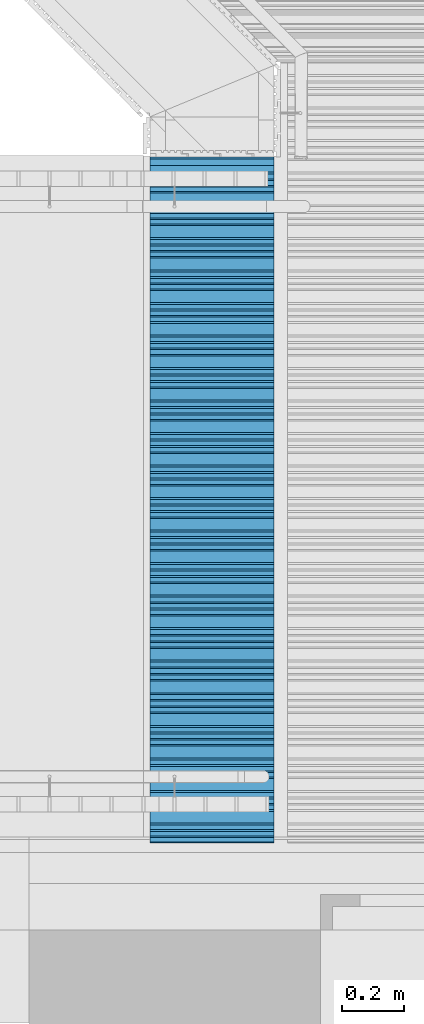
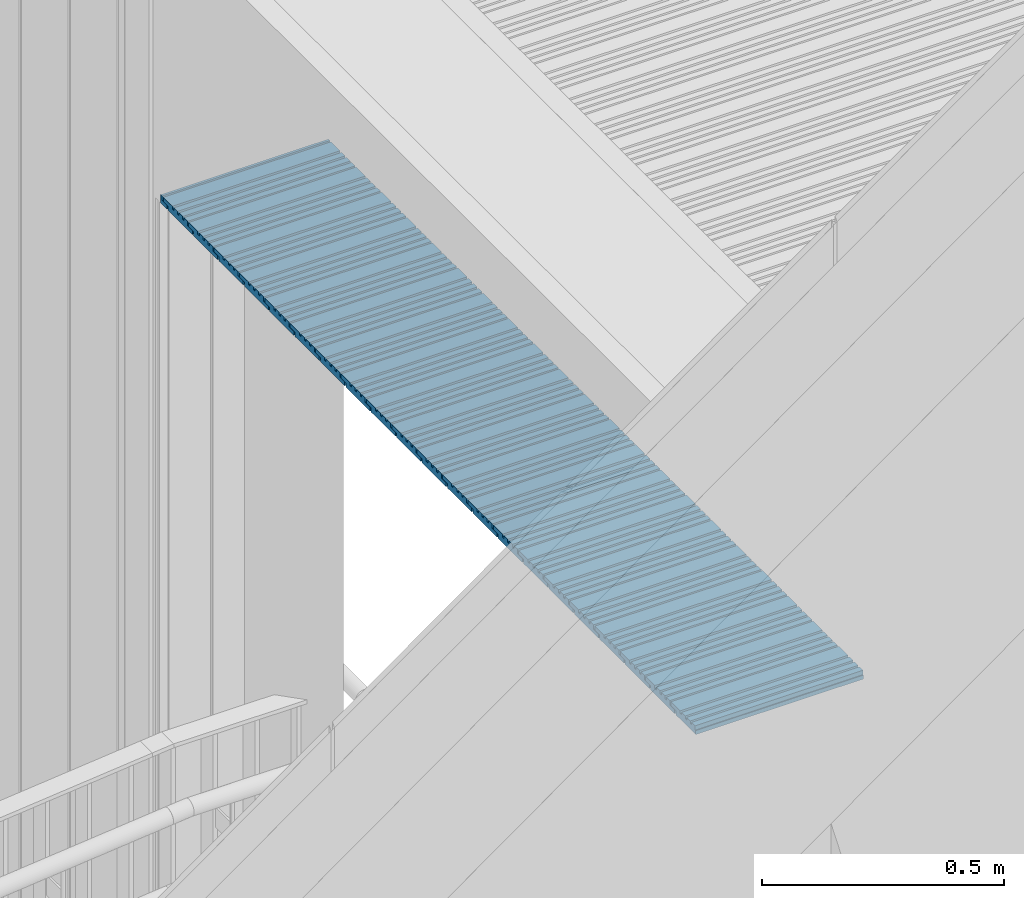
# One storey, part 70 of 418: 22 building element parts, 1 element without a shape of its own.
"""IFC2X3 building model written with IfcOpenShell, lengths in millimetres."""

from ifc_helpers import new_model, entity, si_unit, converted_unit, derived_unit, money_unit, direction, frame, origin_with_axes, place, context, subcontext, project, spatial, polyline, outline, extrude, material, type_object, element, aggregate, save


model = new_model("IFC2X3")

# Units and contexts
model_context = context("Model", 3, precision=0.01, world=origin_with_axes(), true_north=direction((0.0, 1.0)))
body_context = subcontext(model_context, "Body", "Model", "MODEL_VIEW")
ifc_project = project(units=[si_unit("LENGTHUNIT", "METRE", prefix="MILLI"), si_unit("AREAUNIT", "SQUARE_METRE"), si_unit("VOLUMEUNIT", "CUBIC_METRE"), converted_unit("PLANEANGLEUNIT", "DEGREE", entity("IfcPlaneAngleMeasure", 0.0174532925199), si_unit("PLANEANGLEUNIT", "RADIAN"), dimensions=[0, 0, 0, 0, 0, 0, 0]), si_unit("SOLIDANGLEUNIT", "STERADIAN"), money_unit("EUR"), converted_unit("TIMEUNIT", "Year", entity("IfcTimeMeasure", 31556926.0), si_unit("TIMEUNIT", "SECOND"), dimensions=[0, 0, 1, 0, 0, 0, 0]), si_unit("MASSUNIT", "GRAM", prefix="KILO"), si_unit("THERMODYNAMICTEMPERATUREUNIT", "DEGREE_CELSIUS"), si_unit("LUMINOUSINTENSITYUNIT", "LUMEN"), si_unit("ENERGYUNIT", "JOULE", prefix="MEGA"), derived_unit("THERMALCONDUCTANCEUNIT", [(si_unit("POWERUNIT", "WATT"), 1), (si_unit("LENGTHUNIT", "METRE"), -1), (si_unit("THERMODYNAMICTEMPERATUREUNIT", "KELVIN"), -1)]), derived_unit("SPECIFICHEATCAPACITYUNIT", [(si_unit("ENERGYUNIT", "JOULE"), 1), (si_unit("MASSUNIT", "GRAM", prefix="KILO"), -1), (si_unit("THERMODYNAMICTEMPERATUREUNIT", "KELVIN"), -1)]), derived_unit("MASSDENSITYUNIT", [(si_unit("MASSUNIT", "GRAM", prefix="KILO"), 1), (si_unit("VOLUMEUNIT", "CUBIC_METRE"), -1)])], contexts=[model_context])

# Site, building, storey
site_placement = place(None, origin_with_axes())
site = spatial("IfcSite", under=ifc_project, at=site_placement, Name="Paldiski mnt 245/1, Tallinn, Harjumaa", CompositionType="COMPLEX")
building_placement = place(site_placement, origin_with_axes())
building = spatial("IfcBuilding", under=site, at=building_placement, Name="RKAS Hoone üldnimetus (kasutust iseloomustav) -> IFC Project Manager -> SOLIBRI", CompositionType="ELEMENT")
storey_placement = place(building_placement, origin_with_axes())
storey = spatial("IfcBuildingStorey", under=building, at=storey_placement, Name="Esimene korrus", CompositionType="ELEMENT", Elevation=0.0)

# Proxy, building element parts
building_element_proxy_type = type_object("IfcBuildingElementProxyType", Name="Laudis ava ulemine serv_02 2213 x 21", PredefinedType="NOTDEFINED")
proxy_placement = place(storey_placement, frame((-52998.5062673, 38584.1807452, 2280.0), z_axis=(0.0, 0.0, 1.0), x_axis=(-1.0, 0.0, 0.0)))
proxy = element("IfcBuildingElementProxy", 1, at=proxy_placement, inside=storey, type_object=building_element_proxy_type, Name="Varikatus")
ifc_material = material(Name="Laudis 5072 Honka 45 horisontaalne")
building_element_part_1_placement = place(proxy_placement, origin_with_axes())
building_element_part_1 = element("IfcBuildingElementPart", 2, at=building_element_part_1_placement, material=ifc_material, Name="Laudis 5072 Honka 45 horisontaalne", context=body_context, shape_type="SweptSolid", body=[
    extrude(outline(polyline([(31.1789260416, 0.0), (131.17892573, 0.0), (131.178926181, 9.99999952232), (111.178926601, 10.0000004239), (111.178925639, 21.0000001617), (96.6027385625, 21.0000005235), (96.6027383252, 14.000001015), (90.9620699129, 14.0000003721), (90.9620689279, 21.0000008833), (76.1335765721, 20.9999999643), (76.1335763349, 14.0000004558), (70.0066356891, 14.0000000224), (70.0066359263, 20.9999995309), (55.0675187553, 20.9999996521), (55.067518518, 14.0000001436), (48.7050214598, 14.0000004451), (48.7050204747, 21.0000009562), (11.1789259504, 20.9999999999), (11.1789255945, 10.5000007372), (31.1789261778, 10.5000010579), (31.1789260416, 0.0)])), frame((0.0, 0.0, 0.0), z_axis=(1.0, 0.0, 0.0), x_axis=(0.0, 1.0, 0.0)), (0.0, 0.0, 1.0), 400.423812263),
])
building_element_part_2_placement = place(proxy_placement, origin_with_axes())
building_element_part_2 = element("IfcBuildingElementPart", 3, at=building_element_part_2_placement, material=ifc_material, Name="Laudis 5072 Honka 45 horisontaalne", context=body_context, shape_type="SweptSolid", body=[
    extrude(outline(polyline([(136.178926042, 0.0), (236.17892573, 0.0), (236.178926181, 9.99999952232), (216.178926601, 10.0000004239), (216.178925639, 21.0000001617), (201.602738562, 21.0000005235), (201.602738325, 14.000001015), (195.962069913, 14.0000003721), (195.962068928, 21.0000008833), (181.133576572, 20.9999999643), (181.133576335, 14.0000004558), (175.006635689, 14.0000000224), (175.006635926, 20.9999995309), (160.067518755, 20.9999996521), (160.067518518, 14.0000001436), (153.70502146, 14.0000004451), (153.705020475, 21.0000009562), (116.17892595, 20.9999999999), (116.178925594, 10.5000007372), (136.178926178, 10.5000010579), (136.178926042, 0.0)])), frame((0.0, 0.0, 0.0), z_axis=(1.0, 0.0, 0.0), x_axis=(0.0, 1.0, 0.0)), (0.0, 0.0, 1.0), 400.423812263),
])
building_element_part_3_placement = place(proxy_placement, origin_with_axes())
building_element_part_3 = element("IfcBuildingElementPart", 4, at=building_element_part_3_placement, material=ifc_material, Name="Laudis 5072 Honka 45 horisontaalne", context=body_context, shape_type="SweptSolid", body=[
    extrude(outline(polyline([(241.178926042, 0.0), (341.17892573, 0.0), (341.178926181, 9.99999952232), (321.178926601, 10.0000004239), (321.178925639, 21.0000001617), (306.602738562, 21.0000005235), (306.602738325, 14.000001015), (300.962069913, 14.0000003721), (300.962068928, 21.0000008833), (286.133576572, 20.9999999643), (286.133576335, 14.0000004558), (280.006635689, 14.0000000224), (280.006635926, 20.9999995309), (265.067518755, 20.9999996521), (265.067518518, 14.0000001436), (258.70502146, 14.0000004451), (258.705020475, 21.0000009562), (221.17892595, 20.9999999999), (221.178925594, 10.5000007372), (241.178926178, 10.5000010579), (241.178926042, 0.0)])), frame((0.0, 0.0, 0.0), z_axis=(1.0, 0.0, 0.0), x_axis=(0.0, 1.0, 0.0)), (0.0, 0.0, 1.0), 400.423812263),
])
building_element_part_4_placement = place(proxy_placement, origin_with_axes())
building_element_part_4 = element("IfcBuildingElementPart", 5, at=building_element_part_4_placement, material=ifc_material, Name="Laudis 5072 Honka 45 horisontaalne", context=body_context, shape_type="SweptSolid", body=[
    extrude(outline(polyline([(346.178926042, 0.0), (446.17892573, 0.0), (446.178926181, 9.99999952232), (426.178926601, 10.0000004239), (426.178925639, 21.0000001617), (411.602738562, 21.0000005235), (411.602738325, 14.000001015), (405.962069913, 14.0000003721), (405.962068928, 21.0000008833), (391.133576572, 20.9999999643), (391.133576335, 14.0000004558), (385.006635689, 14.0000000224), (385.006635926, 20.9999995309), (370.067518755, 20.9999996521), (370.067518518, 14.0000001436), (363.70502146, 14.0000004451), (363.705020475, 21.0000009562), (326.17892595, 20.9999999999), (326.178925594, 10.5000007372), (346.178926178, 10.5000010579), (346.178926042, 0.0)])), frame((0.0, 0.0, 0.0), z_axis=(1.0, 0.0, 0.0), x_axis=(0.0, 1.0, 0.0)), (0.0, 0.0, 1.0), 400.423812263),
])
building_element_part_5_placement = place(proxy_placement, origin_with_axes())
building_element_part_5 = element("IfcBuildingElementPart", 6, at=building_element_part_5_placement, material=ifc_material, Name="Laudis 5072 Honka 45 horisontaalne", context=body_context, shape_type="SweptSolid", body=[
    extrude(outline(polyline([(451.178926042, 0.0), (551.17892573, 0.0), (551.178926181, 9.99999952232), (531.178926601, 10.0000004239), (531.178925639, 21.0000001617), (516.602738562, 21.0000005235), (516.602738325, 14.000001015), (510.962069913, 14.0000003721), (510.962068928, 21.0000008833), (496.133576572, 20.9999999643), (496.133576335, 14.0000004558), (490.006635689, 14.0000000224), (490.006635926, 20.9999995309), (475.067518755, 20.9999996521), (475.067518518, 14.0000001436), (468.70502146, 14.0000004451), (468.705020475, 21.0000009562), (431.17892595, 20.9999999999), (431.178925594, 10.5000007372), (451.178926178, 10.5000010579), (451.178926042, 0.0)])), frame((0.0, 0.0, 0.0), z_axis=(1.0, 0.0, 0.0), x_axis=(0.0, 1.0, 0.0)), (0.0, 0.0, 1.0), 400.423812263),
])
building_element_part_6_placement = place(proxy_placement, origin_with_axes())
building_element_part_6 = element("IfcBuildingElementPart", 7, at=building_element_part_6_placement, material=ifc_material, Name="Laudis 5072 Honka 45 horisontaalne", context=body_context, shape_type="SweptSolid", body=[
    extrude(outline(polyline([(556.178926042, 0.0), (656.17892573, 0.0), (656.178926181, 9.99999952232), (636.178926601, 10.0000004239), (636.178925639, 21.0000001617), (621.602738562, 21.0000005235), (621.602738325, 14.000001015), (615.962069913, 14.0000003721), (615.962068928, 21.0000008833), (601.133576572, 20.9999999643), (601.133576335, 14.0000004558), (595.006635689, 14.0000000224), (595.006635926, 20.9999995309), (580.067518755, 20.9999996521), (580.067518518, 14.0000001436), (573.70502146, 14.0000004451), (573.705020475, 21.0000009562), (536.17892595, 20.9999999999), (536.178925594, 10.5000007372), (556.178926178, 10.5000010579), (556.178926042, 0.0)])), frame((0.0, 0.0, 0.0), z_axis=(1.0, 0.0, 0.0), x_axis=(0.0, 1.0, 0.0)), (0.0, 0.0, 1.0), 400.423812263),
])
building_element_part_7_placement = place(proxy_placement, origin_with_axes())
building_element_part_7 = element("IfcBuildingElementPart", 8, at=building_element_part_7_placement, material=ifc_material, Name="Laudis 5072 Honka 45 horisontaalne", context=body_context, shape_type="SweptSolid", body=[
    extrude(outline(polyline([(661.178926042, 0.0), (761.17892573, 0.0), (761.178926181, 9.99999952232), (741.178926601, 10.0000004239), (741.178925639, 21.0000001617), (726.602738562, 21.0000005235), (726.602738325, 14.000001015), (720.962069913, 14.0000003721), (720.962068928, 21.0000008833), (706.133576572, 20.9999999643), (706.133576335, 14.0000004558), (700.006635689, 14.0000000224), (700.006635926, 20.9999995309), (685.067518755, 20.9999996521), (685.067518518, 14.0000001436), (678.70502146, 14.0000004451), (678.705020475, 21.0000009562), (641.17892595, 20.9999999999), (641.178925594, 10.5000007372), (661.178926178, 10.5000010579), (661.178926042, 0.0)])), frame((0.0, 0.0, 0.0), z_axis=(1.0, 0.0, 0.0), x_axis=(0.0, 1.0, 0.0)), (0.0, 0.0, 1.0), 400.423812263),
])
building_element_part_8_placement = place(proxy_placement, origin_with_axes())
building_element_part_8 = element("IfcBuildingElementPart", 9, at=building_element_part_8_placement, material=ifc_material, Name="Laudis 5072 Honka 45 horisontaalne", context=body_context, shape_type="SweptSolid", body=[
    extrude(outline(polyline([(766.178926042, 0.0), (866.17892573, 0.0), (866.178926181, 9.99999952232), (846.178926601, 10.0000004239), (846.178925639, 21.0000001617), (831.602738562, 21.0000005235), (831.602738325, 14.000001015), (825.962069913, 14.0000003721), (825.962068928, 21.0000008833), (811.133576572, 20.9999999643), (811.133576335, 14.0000004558), (805.006635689, 14.0000000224), (805.006635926, 20.9999995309), (790.067518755, 20.9999996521), (790.067518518, 14.0000001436), (783.70502146, 14.0000004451), (783.705020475, 21.0000009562), (746.17892595, 20.9999999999), (746.178925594, 10.5000007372), (766.178926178, 10.5000010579), (766.178926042, 0.0)])), frame((0.0, 0.0, 0.0), z_axis=(1.0, 0.0, 0.0), x_axis=(0.0, 1.0, 0.0)), (0.0, 0.0, 1.0), 400.423812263),
])
building_element_part_9_placement = place(proxy_placement, origin_with_axes())
building_element_part_9 = element("IfcBuildingElementPart", 10, at=building_element_part_9_placement, material=ifc_material, Name="Laudis 5072 Honka 45 horisontaalne", context=body_context, shape_type="SweptSolid", body=[
    extrude(outline(polyline([(871.178926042, 0.0), (971.17892573, 0.0), (971.178926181, 9.99999952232), (951.178926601, 10.0000004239), (951.178925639, 21.0000001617), (936.602738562, 21.0000005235), (936.602738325, 14.000001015), (930.962069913, 14.0000003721), (930.962068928, 21.0000008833), (916.133576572, 20.9999999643), (916.133576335, 14.0000004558), (910.006635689, 14.0000000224), (910.006635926, 20.9999995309), (895.067518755, 20.9999996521), (895.067518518, 14.0000001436), (888.70502146, 14.0000004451), (888.705020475, 21.0000009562), (851.17892595, 20.9999999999), (851.178925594, 10.5000007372), (871.178926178, 10.5000010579), (871.178926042, 0.0)])), frame((0.0, 0.0, 0.0), z_axis=(1.0, 0.0, 0.0), x_axis=(0.0, 1.0, 0.0)), (0.0, 0.0, 1.0), 400.423812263),
])
building_element_part_10_placement = place(proxy_placement, origin_with_axes())
building_element_part_10 = element("IfcBuildingElementPart", 11, at=building_element_part_10_placement, material=ifc_material, Name="Laudis 5072 Honka 45 horisontaalne", context=body_context, shape_type="SweptSolid", body=[
    extrude(outline(polyline([(976.178926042, 0.0), (1076.17892573, 0.0), (1076.17892618, 9.99999952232), (1056.1789266, 10.0000004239), (1056.17892564, 21.0000001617), (1041.60273856, 21.0000005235), (1041.60273833, 14.000001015), (1035.96206991, 14.0000003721), (1035.96206893, 21.0000008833), (1021.13357657, 20.9999999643), (1021.13357633, 14.0000004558), (1015.00663569, 14.0000000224), (1015.00663593, 20.9999995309), (1000.06751876, 20.9999996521), (1000.06751852, 14.0000001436), (993.70502146, 14.0000004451), (993.705020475, 21.0000009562), (956.17892595, 20.9999999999), (956.178925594, 10.5000007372), (976.178926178, 10.5000010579), (976.178926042, 0.0)])), frame((0.0, 0.0, 0.0), z_axis=(1.0, 0.0, 0.0), x_axis=(0.0, 1.0, 0.0)), (0.0, 0.0, 1.0), 400.423812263),
])
building_element_part_11_placement = place(proxy_placement, origin_with_axes())
building_element_part_11 = element("IfcBuildingElementPart", 12, at=building_element_part_11_placement, material=ifc_material, Name="Laudis 5072 Honka 45 horisontaalne", context=body_context, shape_type="SweptSolid", body=[
    extrude(outline(polyline([(1081.17892604, 0.0), (1181.17892573, 0.0), (1181.17892618, 9.99999952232), (1161.1789266, 10.0000004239), (1161.17892564, 21.0000001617), (1146.60273856, 21.0000005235), (1146.60273833, 14.000001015), (1140.96206991, 14.0000003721), (1140.96206893, 21.0000008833), (1126.13357657, 20.9999999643), (1126.13357633, 14.0000004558), (1120.00663569, 14.0000000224), (1120.00663593, 20.9999995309), (1105.06751876, 20.9999996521), (1105.06751852, 14.0000001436), (1098.70502146, 14.0000004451), (1098.70502047, 21.0000009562), (1061.17892595, 20.9999999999), (1061.17892559, 10.5000007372), (1081.17892618, 10.5000010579), (1081.17892604, 0.0)])), frame((0.0, 0.0, 0.0), z_axis=(1.0, 0.0, 0.0), x_axis=(0.0, 1.0, 0.0)), (0.0, 0.0, 1.0), 400.423812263),
])
building_element_part_12_placement = place(proxy_placement, origin_with_axes())
building_element_part_12 = element("IfcBuildingElementPart", 13, at=building_element_part_12_placement, material=ifc_material, Name="Laudis 5072 Honka 45 horisontaalne", context=body_context, shape_type="SweptSolid", body=[
    extrude(outline(polyline([(1186.17892604, 0.0), (1286.17892573, 0.0), (1286.17892618, 9.99999952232), (1266.1789266, 10.0000004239), (1266.17892564, 21.0000001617), (1251.60273856, 21.0000005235), (1251.60273833, 14.000001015), (1245.96206991, 14.0000003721), (1245.96206893, 21.0000008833), (1231.13357657, 20.9999999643), (1231.13357633, 14.0000004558), (1225.00663569, 14.0000000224), (1225.00663593, 20.9999995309), (1210.06751876, 20.9999996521), (1210.06751852, 14.0000001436), (1203.70502146, 14.0000004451), (1203.70502047, 21.0000009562), (1166.17892595, 20.9999999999), (1166.17892559, 10.5000007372), (1186.17892618, 10.5000010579), (1186.17892604, 0.0)])), frame((0.0, 0.0, 0.0), z_axis=(1.0, 0.0, 0.0), x_axis=(0.0, 1.0, 0.0)), (0.0, 0.0, 1.0), 400.423812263),
])
building_element_part_13_placement = place(proxy_placement, origin_with_axes())
building_element_part_13 = element("IfcBuildingElementPart", 14, at=building_element_part_13_placement, material=ifc_material, Name="Laudis 5072 Honka 45 horisontaalne", context=body_context, shape_type="SweptSolid", body=[
    extrude(outline(polyline([(1291.17892604, 0.0), (1391.17892573, 0.0), (1391.17892618, 9.99999952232), (1371.1789266, 10.0000004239), (1371.17892564, 21.0000001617), (1356.60273856, 21.0000005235), (1356.60273833, 14.000001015), (1350.96206991, 14.0000003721), (1350.96206893, 21.0000008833), (1336.13357657, 20.9999999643), (1336.13357633, 14.0000004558), (1330.00663569, 14.0000000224), (1330.00663593, 20.9999995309), (1315.06751876, 20.9999996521), (1315.06751852, 14.0000001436), (1308.70502146, 14.0000004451), (1308.70502047, 21.0000009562), (1271.17892595, 20.9999999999), (1271.17892559, 10.5000007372), (1291.17892618, 10.5000010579), (1291.17892604, 0.0)])), frame((0.0, 0.0, 0.0), z_axis=(1.0, 0.0, 0.0), x_axis=(0.0, 1.0, 0.0)), (0.0, 0.0, 1.0), 400.423812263),
])
building_element_part_14_placement = place(proxy_placement, origin_with_axes())
building_element_part_14 = element("IfcBuildingElementPart", 15, at=building_element_part_14_placement, material=ifc_material, Name="Laudis 5072 Honka 45 horisontaalne", context=body_context, shape_type="SweptSolid", body=[
    extrude(outline(polyline([(1396.17892604, 0.0), (1496.17892573, 0.0), (1496.17892618, 9.99999952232), (1476.1789266, 10.0000004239), (1476.17892564, 21.0000001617), (1461.60273856, 21.0000005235), (1461.60273833, 14.000001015), (1455.96206991, 14.0000003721), (1455.96206893, 21.0000008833), (1441.13357657, 20.9999999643), (1441.13357633, 14.0000004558), (1435.00663569, 14.0000000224), (1435.00663593, 20.9999995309), (1420.06751876, 20.9999996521), (1420.06751852, 14.0000001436), (1413.70502146, 14.0000004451), (1413.70502047, 21.0000009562), (1376.17892595, 20.9999999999), (1376.17892559, 10.5000007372), (1396.17892618, 10.5000010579), (1396.17892604, 0.0)])), frame((0.0, 0.0, 0.0), z_axis=(1.0, 0.0, 0.0), x_axis=(0.0, 1.0, 0.0)), (0.0, 0.0, 1.0), 400.423812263),
])
building_element_part_15_placement = place(proxy_placement, origin_with_axes())
building_element_part_15 = element("IfcBuildingElementPart", 16, at=building_element_part_15_placement, material=ifc_material, Name="Laudis 5072 Honka 45 horisontaalne", context=body_context, shape_type="SweptSolid", body=[
    extrude(outline(polyline([(1501.17892604, 0.0), (1601.17892573, 0.0), (1601.17892618, 9.99999952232), (1581.1789266, 10.0000004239), (1581.17892564, 21.0000001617), (1566.60273856, 21.0000005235), (1566.60273833, 14.000001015), (1560.96206991, 14.0000003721), (1560.96206893, 21.0000008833), (1546.13357657, 20.9999999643), (1546.13357633, 14.0000004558), (1540.00663569, 14.0000000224), (1540.00663593, 20.9999995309), (1525.06751876, 20.9999996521), (1525.06751852, 14.0000001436), (1518.70502146, 14.0000004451), (1518.70502047, 21.0000009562), (1481.17892595, 20.9999999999), (1481.17892559, 10.5000007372), (1501.17892618, 10.5000010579), (1501.17892604, 0.0)])), frame((0.0, 0.0, 0.0), z_axis=(1.0, 0.0, 0.0), x_axis=(0.0, 1.0, 0.0)), (0.0, 0.0, 1.0), 400.423812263),
])
building_element_part_16_placement = place(proxy_placement, origin_with_axes())
building_element_part_16 = element("IfcBuildingElementPart", 17, at=building_element_part_16_placement, material=ifc_material, Name="Laudis 5072 Honka 45 horisontaalne", context=body_context, shape_type="SweptSolid", body=[
    extrude(outline(polyline([(1606.17892604, 0.0), (1706.17892573, 0.0), (1706.17892618, 9.99999952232), (1686.1789266, 10.0000004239), (1686.17892564, 21.0000001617), (1671.60273856, 21.0000005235), (1671.60273833, 14.000001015), (1665.96206991, 14.0000003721), (1665.96206893, 21.0000008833), (1651.13357657, 20.9999999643), (1651.13357633, 14.0000004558), (1645.00663569, 14.0000000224), (1645.00663593, 20.9999995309), (1630.06751876, 20.9999996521), (1630.06751852, 14.0000001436), (1623.70502146, 14.0000004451), (1623.70502047, 21.0000009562), (1586.17892595, 20.9999999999), (1586.17892559, 10.5000007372), (1606.17892618, 10.5000010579), (1606.17892604, 0.0)])), frame((0.0, 0.0, 0.0), z_axis=(1.0, 0.0, 0.0), x_axis=(0.0, 1.0, 0.0)), (0.0, 0.0, 1.0), 400.423812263),
])
building_element_part_17_placement = place(proxy_placement, origin_with_axes())
building_element_part_17 = element("IfcBuildingElementPart", 18, at=building_element_part_17_placement, material=ifc_material, Name="Laudis 5072 Honka 45 horisontaalne", context=body_context, shape_type="SweptSolid", body=[
    extrude(outline(polyline([(1711.17892604, 0.0), (1811.17892573, 0.0), (1811.17892618, 9.99999952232), (1791.1789266, 10.0000004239), (1791.17892564, 21.0000001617), (1776.60273856, 21.0000005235), (1776.60273833, 14.000001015), (1770.96206991, 14.0000003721), (1770.96206893, 21.0000008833), (1756.13357657, 20.9999999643), (1756.13357633, 14.0000004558), (1750.00663569, 14.0000000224), (1750.00663593, 20.9999995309), (1735.06751876, 20.9999996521), (1735.06751852, 14.0000001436), (1728.70502146, 14.0000004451), (1728.70502047, 21.0000009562), (1691.17892595, 20.9999999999), (1691.17892559, 10.5000007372), (1711.17892618, 10.5000010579), (1711.17892604, 0.0)])), frame((0.0, 0.0, 0.0), z_axis=(1.0, 0.0, 0.0), x_axis=(0.0, 1.0, 0.0)), (0.0, 0.0, 1.0), 400.423812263),
])
building_element_part_18_placement = place(proxy_placement, origin_with_axes())
building_element_part_18 = element("IfcBuildingElementPart", 19, at=building_element_part_18_placement, material=ifc_material, Name="Laudis 5072 Honka 45 horisontaalne", context=body_context, shape_type="SweptSolid", body=[
    extrude(outline(polyline([(1816.17892604, 0.0), (1916.17892573, 0.0), (1916.17892618, 9.99999952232), (1896.1789266, 10.0000004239), (1896.17892564, 21.0000001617), (1881.60273856, 21.0000005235), (1881.60273833, 14.000001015), (1875.96206991, 14.0000003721), (1875.96206893, 21.0000008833), (1861.13357657, 20.9999999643), (1861.13357633, 14.0000004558), (1855.00663569, 14.0000000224), (1855.00663593, 20.9999995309), (1840.06751876, 20.9999996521), (1840.06751852, 14.0000001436), (1833.70502146, 14.0000004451), (1833.70502047, 21.0000009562), (1796.17892595, 20.9999999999), (1796.17892559, 10.5000007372), (1816.17892618, 10.5000010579), (1816.17892604, 0.0)])), frame((0.0, 0.0, 0.0), z_axis=(1.0, 0.0, 0.0), x_axis=(0.0, 1.0, 0.0)), (0.0, 0.0, 1.0), 400.423812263),
])
building_element_part_19_placement = place(proxy_placement, origin_with_axes())
building_element_part_19 = element("IfcBuildingElementPart", 20, at=building_element_part_19_placement, material=ifc_material, Name="Laudis 5072 Honka 45 horisontaalne", context=body_context, shape_type="SweptSolid", body=[
    extrude(outline(polyline([(1921.17892604, 0.0), (2021.17892573, 0.0), (2021.17892618, 9.99999952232), (2001.1789266, 10.0000004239), (2001.17892564, 21.0000001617), (1986.60273856, 21.0000005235), (1986.60273833, 14.000001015), (1980.96206991, 14.0000003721), (1980.96206893, 21.0000008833), (1966.13357657, 20.9999999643), (1966.13357633, 14.0000004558), (1960.00663569, 14.0000000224), (1960.00663593, 20.9999995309), (1945.06751876, 20.9999996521), (1945.06751852, 14.0000001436), (1938.70502146, 14.0000004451), (1938.70502047, 21.0000009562), (1901.17892595, 20.9999999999), (1901.17892559, 10.5000007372), (1921.17892618, 10.5000010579), (1921.17892604, 0.0)])), frame((0.0, 0.0, 0.0), z_axis=(1.0, 0.0, 0.0), x_axis=(0.0, 1.0, 0.0)), (0.0, 0.0, 1.0), 400.423812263),
])
building_element_part_20_placement = place(proxy_placement, origin_with_axes())
building_element_part_20 = element("IfcBuildingElementPart", 21, at=building_element_part_20_placement, material=ifc_material, Name="Laudis 5072 Honka 45 horisontaalne", context=body_context, shape_type="SweptSolid", body=[
    extrude(outline(polyline([(2026.17892604, 0.0), (2126.17892573, 0.0), (2126.17892618, 9.99999952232), (2106.1789266, 10.0000004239), (2106.17892564, 21.0000001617), (2091.60273856, 21.0000005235), (2091.60273833, 14.000001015), (2085.96206991, 14.0000003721), (2085.96206893, 21.0000008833), (2071.13357657, 20.9999999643), (2071.13357633, 14.0000004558), (2065.00663569, 14.0000000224), (2065.00663593, 20.9999995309), (2050.06751876, 20.9999996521), (2050.06751852, 14.0000001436), (2043.70502146, 14.0000004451), (2043.70502047, 21.0000009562), (2006.17892595, 20.9999999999), (2006.17892559, 10.5000007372), (2026.17892618, 10.5000010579), (2026.17892604, 0.0)])), frame((0.0, 0.0, 0.0), z_axis=(1.0, 0.0, 0.0), x_axis=(0.0, 1.0, 0.0)), (0.0, 0.0, 1.0), 400.423812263),
])
building_element_part_21_placement = place(proxy_placement, origin_with_axes())
building_element_part_21 = element("IfcBuildingElementPart", 22, at=building_element_part_21_placement, material=ifc_material, Name="Laudis 5072 Honka 45 horisontaalne", context=body_context, shape_type="SweptSolid", body=[
    extrude(outline(polyline([(0.0, 0.0), (26.1789260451, 0.0), (26.1789260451, 9.99999973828), (6.1789265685, 10.0000006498), (6.17892565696, 20.9999997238), (0.0, 20.9999988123), (0.0, 0.0)])), frame((0.0, 0.0, 0.0), z_axis=(1.0, 0.0, 0.0), x_axis=(0.0, 1.0, 0.0)), (0.0, 0.0, 1.0), 400.423812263),
])
building_element_part_22_placement = place(proxy_placement, origin_with_axes())
building_element_part_22 = element("IfcBuildingElementPart", 23, at=building_element_part_22_placement, material=ifc_material, Name="Laudis 5072 Honka 45 horisontaalne", context=body_context, shape_type="SweptSolid", body=[
    extrude(outline(polyline([(2131.17892604, 0.0), (2213.17892573, 0.0), (2213.17892618, 10.0000003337), (2211.1789266, 10.0000004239), (2211.17892564, 21.0000001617), (2196.60273856, 21.0000005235), (2196.60273833, 14.000001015), (2190.96206991, 14.0000003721), (2190.96206893, 21.0000008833), (2176.13357657, 20.9999999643), (2176.13357633, 14.0000004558), (2170.00663569, 14.0000000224), (2170.00663593, 20.9999995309), (2155.06751876, 20.9999996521), (2155.06751852, 14.0000001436), (2148.70502146, 14.0000004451), (2148.70502047, 21.0000009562), (2111.17892595, 20.9999999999), (2111.17892559, 10.5000007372), (2131.17892618, 10.5000010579), (2131.17892604, 0.0)])), frame((0.0, 0.0, 0.0), z_axis=(1.0, 0.0, 0.0), x_axis=(0.0, 1.0, 0.0)), (0.0, 0.0, 1.0), 400.423812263),
])
aggregate(proxy, [building_element_part_1, building_element_part_2, building_element_part_3, building_element_part_4, building_element_part_5, building_element_part_6, building_element_part_7, building_element_part_8, building_element_part_9, building_element_part_10, building_element_part_11, building_element_part_12, building_element_part_13, building_element_part_14, building_element_part_15, building_element_part_16, building_element_part_17, building_element_part_18, building_element_part_19, building_element_part_20, building_element_part_21, building_element_part_22])

save(model, "model.ifc")
